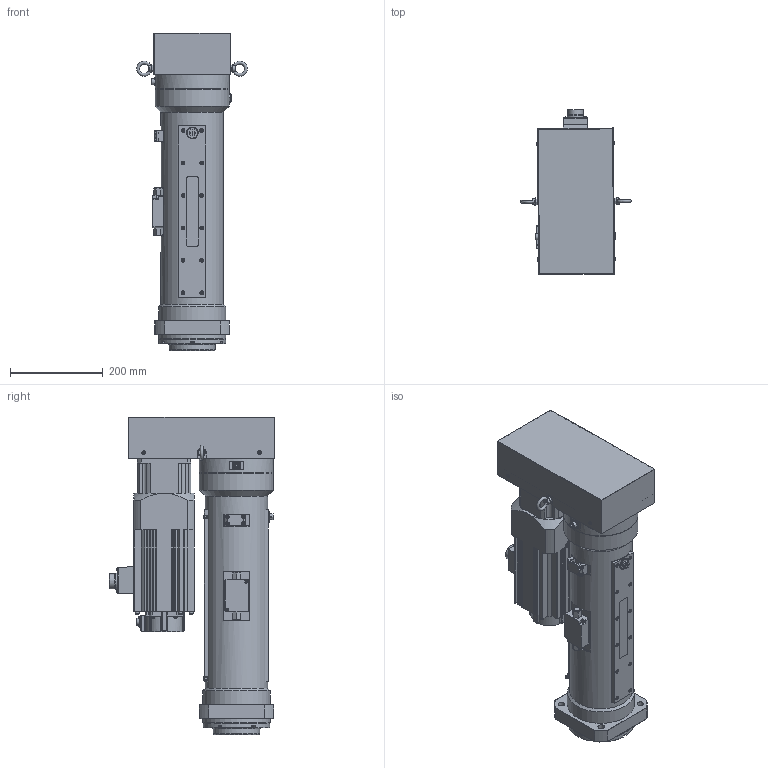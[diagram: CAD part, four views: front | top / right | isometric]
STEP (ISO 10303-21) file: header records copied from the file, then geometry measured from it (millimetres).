
FILE_DESCRIPTION(/* description */ (''),/* implementation_level */ '2;1');
FILE_NAME(/* name */ 'Z:\07.Product\01.Design\3D\1.P-All\OAICS-P\0000.Assembly\OACIS-P070,P080-300-150-A6V200.stp',/* time_stamp */ '2023-03-03T11:04:53+09:00',/* author */ ('magic'),/* organization */ (''),/* preprocessor_version */ 'ST-DEVELOPER v17',/* originating_system */ 'Autodesk Inventor 2019',/* authorisation */ '');
FILE_SCHEMA (('AUTOMOTIVE_DESIGN { 1 0 10303 214 3 1 1 }'));
Products named in the file (1): OACIS-P080-300-150-A6
Bounding box: 238.9 x 356.59 x 685 mm (x, y, z)
Volume: 13042637.2 mm3; surface area: 1424427.2 mm2
Topology: 1 solids, 6 shells, 2434 faces, 6682 edges, 4424 vertices
Faces by surface type: plane 1209, cylinder 708, cone 249, bspline 109, torus 99, sphere 60
Full cylindrical faces by diameter (mm): 1 x6, 3 x1, 3.242 x7, 4.134 x4, 4.5 x1, 4.917 x1, 5.8 x2, 6.5 x2, 6.647 x32, 6.75 x4, 7 x35, 7.2 x2, 7.24 x2, 7.8 x2, 8 x42, 8.5 x4, 9 x24, 9.188 x1, 10.3 x1, 11 x1, 12 x1, 13 x1, 13.835 x8, 14 x13, 14.8 x1, 16.376 x1, 18 x1, 25.4 x1, 26 x1, 32 x1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
Entity records: 91097 total; most frequent: CARTESIAN_POINT 26650, ORIENTED_EDGE 13125, DIRECTION 12948, EDGE_CURVE 6570, AXIS2_PLACEMENT_3D 4813, VERTEX_POINT 4424, LINE 3322, VECTOR 3322
